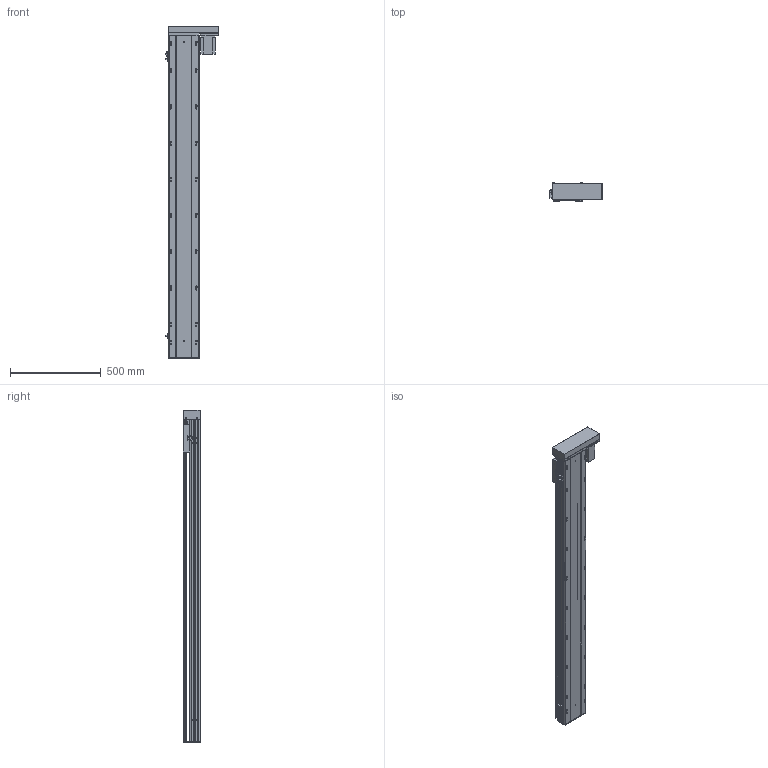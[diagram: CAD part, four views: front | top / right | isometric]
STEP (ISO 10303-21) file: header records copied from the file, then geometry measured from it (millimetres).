
FILE_DESCRIPTION (( 'STEP AP203' ), '1' );
FILE_NAME ('Y170-D10-S1500-BR-P750W.STEP', '2020-01-21T12:53:51', ( '微软用户' ), ( '微软中国' ), 'SwSTEP 2.0', 'SolidWorks 2017', '' );
FILE_SCHEMA (( 'CONFIG_CONTROL_DESIGN' ));
Length unit declared in the file: millimetre
Products named in the file (12): EGH20賑輸_蕼偞; Y雄赽釱-耜蚾; Y170-陔遴奻裔-BR; Y-BL.BR-俋欶; Y--BL蟀諉啣-陔遴-; Y170耜裔--準---; YD-Y100-135-新外置传感挡片(通用）; 170--掛极-BR; Y100-135俋离換覜ん; Y170-BL-P750W楊擘啣; Y170-D10-S1500-BR-P750W; 侂狟750W
Assembly tree (14 placements, depth 2):
  Y170-D10-S1500-BR-P750W
    Y170耜裔--準---
    170--掛极-BR
    Y170-BL-P750W楊擘啣
    侂狟750W
    EGH20賑輸_蕼偞  x2
    Y雄赽釱-耜蚾
    Y170-陔遴奻裔-BR
    Y-BL.BR-俋欶
    Y--BL蟀諉啣-陔遴-
    YD-Y100-135-新外置传感挡片(通用）
    Y100-135俋离換覜ん  x3
Bounding box: 289 x 97 x 1833.5 mm (x, y, z)
Volume: 8126983.8 mm3; surface area: 2875958.6 mm2
Topology: 14 solids, 14 shells, 969 faces, 2786 edges, 1840 vertices
Faces by surface type: cylinder 510, plane 443, cone 16
Entity records: 31370 total; most frequent: CARTESIAN_POINT 5758, DIRECTION 5148, ORIENTED_EDGE 5068, EDGE_CURVE 2534, AXIS2_PLACEMENT_3D 1842, VERTEX_POINT 1684, LINE 1464, VECTOR 1464
